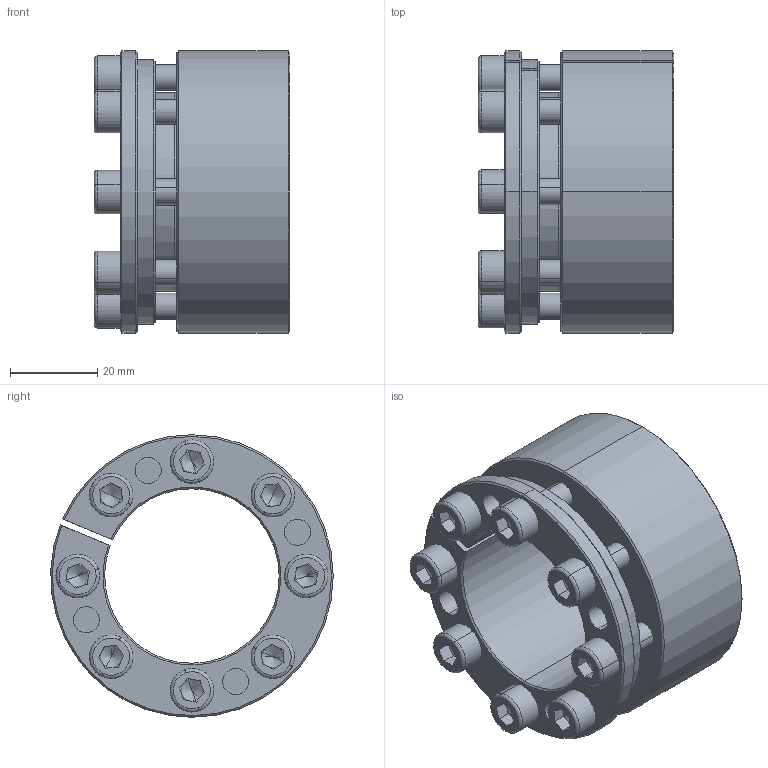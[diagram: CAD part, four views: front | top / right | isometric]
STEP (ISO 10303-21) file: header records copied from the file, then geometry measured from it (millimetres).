
FILE_DESCRIPTION (( 'STEP AP214' ), '1' );
FILE_NAME ('PL-H2 40-65.STEP', '2022-07-25T02:01:17', ( '' ), ( '' ), 'SwSTEP 2.0', 'SolidWorks 2022', '' );
FILE_SCHEMA (( 'AUTOMOTIVE_DESIGN' ));
Length unit declared in the file: millimetre
Products named in the file (1): PL-H2 40-65
Bounding box: 45 x 64.89 x 64.92 mm (x, y, z)
Volume: 68467.3 mm3; surface area: 27808.4 mm2
Topology: 1 solids, 1 shells, 299 faces, 733 edges, 452 vertices
Faces by surface type: plane 128, cylinder 87, cone 68, torus 16
Entity records: 8834 total; most frequent: DIRECTION 1634, CARTESIAN_POINT 1541, ORIENTED_EDGE 1434, EDGE_CURVE 717, AXIS2_PLACEMENT_3D 641, VERTEX_POINT 452, EDGE_LOOP 355, VECTOR 352
